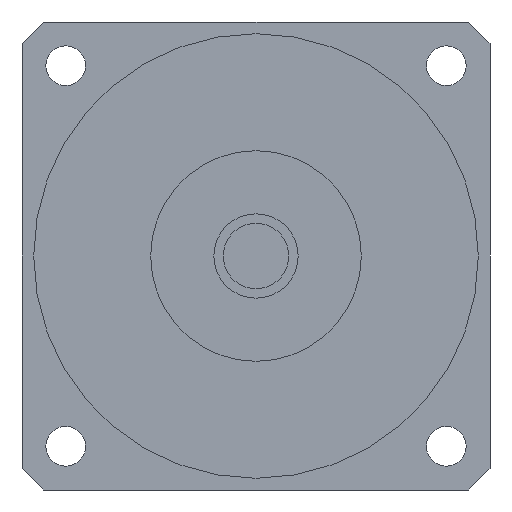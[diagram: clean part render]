
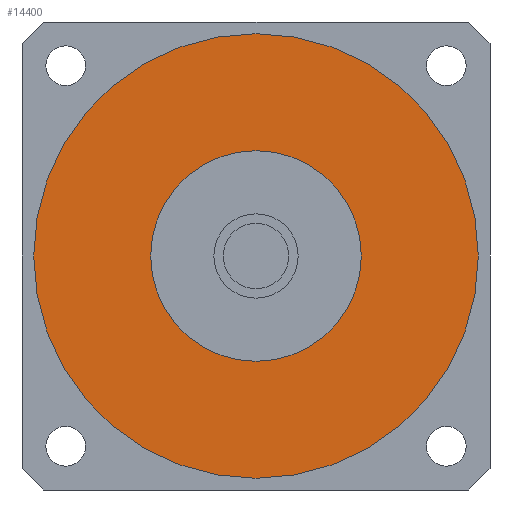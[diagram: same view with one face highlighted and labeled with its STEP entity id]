
A CAD part, left-side view. The second image highlights one B-rep face of the part: STEP entity #14400.
In plain terms, the highlighted planar face has unit normal (-1, 0, 0) as drawn and (0, 0, -1) by its records, which use the part's own axes.
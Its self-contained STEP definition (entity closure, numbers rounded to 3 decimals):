
#13820=CARTESIAN_POINT('',(47.5,0.,-38.7));
#13830=VERTEX_POINT('',#13820);
#13920=CARTESIAN_POINT('',(-47.5,0.,-38.7));
#13930=VERTEX_POINT('',#13920);
#13960=CARTESIAN_POINT('',(0.,0.,
-38.7));
#13970=DIRECTION('',(0.,0.,1.));
#13980=DIRECTION('',(0.,1.,0.));
#13990=AXIS2_PLACEMENT_3D('',#13960,#13970,#13980);
#14000=CIRCLE('',#13990,47.5);
#14010=CARTESIAN_POINT('',(0.,47.5,-38.7));
#14020=VERTEX_POINT('',#14010);
#14030=EDGE_CURVE('',#14020,#13930,#14000,.T.);
#14050=EDGE_CURVE('',#13830,#14020,#14000,.T.);
#14100=CARTESIAN_POINT('',(0.,0.,
-38.7));
#14110=DIRECTION('',(0.,0.,1.));
#14120=DIRECTION('',(-1.,0.,0.));
#14130=AXIS2_PLACEMENT_3D('',#14100,#14110,#14120);
#14140=PLANE('',#14130);
#14150=ORIENTED_EDGE('',*,*,#14030,.F.);
#14160=EDGE_CURVE('',#13930,#13830,#14000,.T.);
#14170=ORIENTED_EDGE('',*,*,#14160,.F.);
#14180=ORIENTED_EDGE('',*,*,#14050,.F.);
#14190=EDGE_LOOP('',(#14180,#14170,#14150));
#14200=FACE_OUTER_BOUND('',#14190,.T.);
#14210=CARTESIAN_POINT('',(0.,0.,
-38.7));
#14220=DIRECTION('',(0.,0.,1.));
#14230=DIRECTION('',(0.,1.,0.));
#14240=AXIS2_PLACEMENT_3D('',#14210,#14220,#14230);
#14250=CIRCLE('',#14240,22.5);
#14260=CARTESIAN_POINT('',(-22.5,0.,-38.7));
#14270=VERTEX_POINT('',#14260);
#14280=CARTESIAN_POINT('',(22.5,0.,-38.7));
#14290=VERTEX_POINT('',#14280);
#14300=EDGE_CURVE('',#14270,#14290,#14250,.T.);
#14310=ORIENTED_EDGE('',*,*,#14300,.T.);
#14320=CARTESIAN_POINT('',(0.,22.5,-38.7));
#14330=VERTEX_POINT('',#14320);
#14340=EDGE_CURVE('',#14330,#14270,#14250,.T.);
#14350=ORIENTED_EDGE('',*,*,#14340,.T.);
#14360=EDGE_CURVE('',#14290,#14330,#14250,.T.);
#14370=ORIENTED_EDGE('',*,*,#14360,.T.);
#14380=EDGE_LOOP('',(#14370,#14350,#14310));
#14390=FACE_BOUND('',#14380,.T.);
#14400=ADVANCED_FACE('',(#14200,#14390),#14140,.F.);
